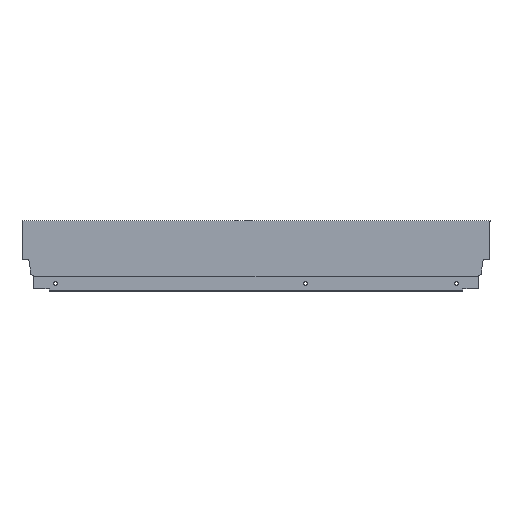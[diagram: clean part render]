
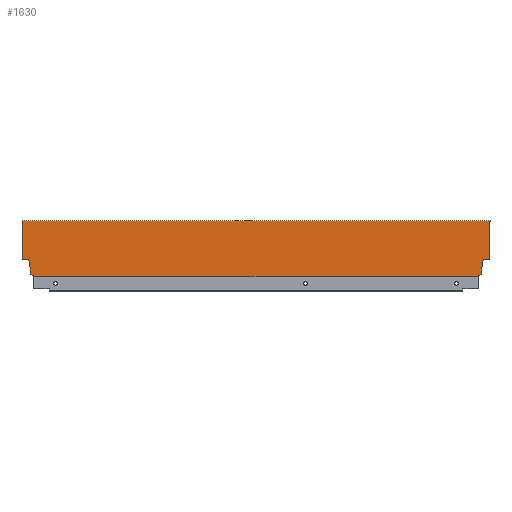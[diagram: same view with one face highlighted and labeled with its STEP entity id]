
A CAD part, top view. The second image highlights one B-rep face of the part: STEP entity #1630.
In plain terms, the highlighted planar face has unit normal (0, 0, 1).
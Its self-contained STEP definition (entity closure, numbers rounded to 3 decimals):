
#15 = ORIENTED_EDGE ( 'NONE', *, *, #1556, .F. ) ;
#20 = ORIENTED_EDGE ( 'NONE', *, *, #1554, .F. ) ;
#27 = ORIENTED_EDGE ( 'NONE', *, *, #1524, .F. ) ;
#28 = ORIENTED_EDGE ( 'NONE', *, *, #1550, .F. ) ;
#30 = ORIENTED_EDGE ( 'NONE', *, *, #1547, .F. ) ;
#43 = ORIENTED_EDGE ( 'NONE', *, *, #1539, .F. ) ;
#47 = ORIENTED_EDGE ( 'NONE', *, *, #1537, .F. ) ;
#48 = ORIENTED_EDGE ( 'NONE', *, *, #1543, .F. ) ;
#58 = ORIENTED_EDGE ( 'NONE', *, *, #1545, .F. ) ;
#64 = ORIENTED_EDGE ( 'NONE', *, *, #1548, .T. ) ;
#68 = ORIENTED_EDGE ( 'NONE', *, *, #1558, .F. ) ;
#72 = ORIENTED_EDGE ( 'NONE', *, *, #1535, .T. ) ;
#77 = ORIENTED_EDGE ( 'NONE', *, *, #1560, .F. ) ;
#78 = ORIENTED_EDGE ( 'NONE', *, *, #1552, .F. ) ;
#82 = ORIENTED_EDGE ( 'NONE', *, *, #1541, .F. ) ;
#94 = ORIENTED_EDGE ( 'NONE', *, *, #1542, .F. ) ;
#95 = ORIENTED_EDGE ( 'NONE', *, *, #1546, .F. ) ;
#96 = ORIENTED_EDGE ( 'NONE', *, *, #1533, .T. ) ;
#190 = AXIS2_PLACEMENT_3D ( 'NONE', #1067, #1072, #1073 ) ;
#451 = LINE ( 'NONE', #944, #452 ) ;
#452 = VECTOR ( 'NONE', #945, 1000. ) ;
#463 = VECTOR ( 'NONE', #981, 1000. ) ;
#466 = LINE ( 'NONE', #963, #467 ) ;
#467 = VECTOR ( 'NONE', #964, 1000. ) ;
#469 = LINE ( 'NONE', #980, #463 ) ;
#470 = LINE ( 'NONE', #966, #471 ) ;
#471 = VECTOR ( 'NONE', #967, 1000. ) ;
#474 = LINE ( 'NONE', #970, #475 ) ;
#475 = VECTOR ( 'NONE', #971, 1000. ) ;
#478 = LINE ( 'NONE', #975, #479 ) ;
#479 = VECTOR ( 'NONE', #976, 1000. ) ;
#481 = LINE ( 'NONE', #1006, #520 ) ;
#482 = LINE ( 'NONE', #974, #508 ) ;
#484 = LINE ( 'NONE', #982, #485 ) ;
#485 = VECTOR ( 'NONE', #983, 1000. ) ;
#486 = LINE ( 'NONE', #984, #487 ) ;
#487 = VECTOR ( 'NONE', #985, 1000. ) ;
#490 = LINE ( 'NONE', #988, #491 ) ;
#491 = VECTOR ( 'NONE', #989, 1000. ) ;
#492 = LINE ( 'NONE', #990, #493 ) ;
#493 = VECTOR ( 'NONE', #991, 1000. ) ;
#494 = LINE ( 'NONE', #992, #495 ) ;
#495 = VECTOR ( 'NONE', #993, 1000. ) ;
#496 = LINE ( 'NONE', #994, #497 ) ;
#497 = VECTOR ( 'NONE', #995, 1000. ) ;
#500 = LINE ( 'NONE', #998, #501 ) ;
#501 = VECTOR ( 'NONE', #999, 1000. ) ;
#504 = LINE ( 'NONE', #1002, #505 ) ;
#505 = VECTOR ( 'NONE', #1003, 1000. ) ;
#508 = VECTOR ( 'NONE', #1007, 1000. ) ;
#512 = LINE ( 'NONE', #1010, #513 ) ;
#513 = VECTOR ( 'NONE', #1011, 1000. ) ;
#516 = LINE ( 'NONE', #1014, #517 ) ;
#517 = VECTOR ( 'NONE', #1015, 1000. ) ;
#520 = VECTOR ( 'NONE', #1019, 1000. ) ;
#568 = VERTEX_POINT ( 'NONE', #809 ) ;
#571 = VERTEX_POINT ( 'NONE', #800 ) ;
#573 = VERTEX_POINT ( 'NONE', #812 ) ;
#576 = VERTEX_POINT ( 'NONE', #813 ) ;
#579 = VERTEX_POINT ( 'NONE', #816 ) ;
#581 = VERTEX_POINT ( 'NONE', #818 ) ;
#589 = VERTEX_POINT ( 'NONE', #826 ) ;
#591 = VERTEX_POINT ( 'NONE', #828 ) ;
#595 = VERTEX_POINT ( 'NONE', #832 ) ;
#605 = VERTEX_POINT ( 'NONE', #842 ) ;
#613 = VERTEX_POINT ( 'NONE', #850 ) ;
#619 = VERTEX_POINT ( 'NONE', #856 ) ;
#623 = VERTEX_POINT ( 'NONE', #860 ) ;
#635 = VERTEX_POINT ( 'NONE', #872 ) ;
#641 = VERTEX_POINT ( 'NONE', #878 ) ;
#642 = VERTEX_POINT ( 'NONE', #879 ) ;
#655 = VERTEX_POINT ( 'NONE', #892 ) ;
#656 = VERTEX_POINT ( 'NONE', #893 ) ;
#800 = CARTESIAN_POINT ( 'NONE',  ( 1., 68., 7.5 ) ) ;
#809 = CARTESIAN_POINT ( 'NONE',  ( 1., 66.5, 7.5 ) ) ;
#812 = CARTESIAN_POINT ( 'NONE',  ( -13.004, 1.146, 7.5 ) ) ;
#813 = CARTESIAN_POINT ( 'NONE',  ( -553.996, 1.146, 7.5 ) ) ;
#816 = CARTESIAN_POINT ( 'NONE',  ( -567., 21.2, 7.5 ) ) ;
#818 = CARTESIAN_POINT ( 'NONE',  ( -559.94, 21.2, 7.5 ) ) ;
#826 = CARTESIAN_POINT ( 'NONE',  ( -567., 66.5, 7.5 ) ) ;
#828 = CARTESIAN_POINT ( 'NONE',  ( -8.9, 2.64, 7.5 ) ) ;
#832 = CARTESIAN_POINT ( 'NONE',  ( -8.9, 10.765, 7.5 ) ) ;
#842 = CARTESIAN_POINT ( 'NONE',  ( 0., 66.5, 7.5 ) ) ;
#850 = CARTESIAN_POINT ( 'NONE',  ( -7.06, 21.2, 7.5 ) ) ;
#856 = CARTESIAN_POINT ( 'NONE',  ( 0., 21.2, 7.5 ) ) ;
#860 = CARTESIAN_POINT ( 'NONE',  ( -558.1, 10.765, 7.5 ) ) ;
#872 = CARTESIAN_POINT ( 'NONE',  ( -568., 66.5, 7.5 ) ) ;
#878 = CARTESIAN_POINT ( 'NONE',  ( -13.004, 0., 7.5 ) ) ;
#879 = CARTESIAN_POINT ( 'NONE',  ( -568., 68., 7.5 ) ) ;
#892 = CARTESIAN_POINT ( 'NONE',  ( -553.996, 0., 7.5 ) ) ;
#893 = CARTESIAN_POINT ( 'NONE',  ( -558.1, 2.64, 7.5 ) ) ;
#944 = CARTESIAN_POINT ( 'NONE',  ( 0., 0., 7.5 ) ) ;
#945 = DIRECTION ( 'NONE',  ( 0., -1., 0. ) ) ;
#963 = CARTESIAN_POINT ( 'NONE',  ( -567., 0., 7.5 ) ) ;
#964 = DIRECTION ( 'NONE',  ( 1., 0., 0. ) ) ;
#966 = CARTESIAN_POINT ( 'NONE',  ( -568., 66.5, 7.5 ) ) ;
#967 = DIRECTION ( 'NONE',  ( 1., 0., 0. ) ) ;
#970 = CARTESIAN_POINT ( 'NONE',  ( -572., 21.2, 7.5 ) ) ;
#971 = DIRECTION ( 'NONE',  ( -1., 0., 0. ) ) ;
#974 = CARTESIAN_POINT ( 'NONE',  ( -7.06, 21.2, 7.5 ) ) ;
#975 = CARTESIAN_POINT ( 'NONE',  ( -567., 68., 7.5 ) ) ;
#976 = DIRECTION ( 'NONE',  ( 1., 0., 0. ) ) ;
#980 = CARTESIAN_POINT ( 'NONE',  ( -558.1, 10.765, 7.5 ) ) ;
#981 = DIRECTION ( 'NONE',  ( 0., 1., 0. ) ) ;
#982 = CARTESIAN_POINT ( 'NONE',  ( -559.94, 21.2, 7.5 ) ) ;
#983 = DIRECTION ( 'NONE',  ( -0.174, 0.985, 0. ) ) ;
#984 = CARTESIAN_POINT ( 'NONE',  ( -553.996, 1.146, 7.5 ) ) ;
#985 = DIRECTION ( 'NONE',  ( 0., 1., 0. ) ) ;
#988 = CARTESIAN_POINT ( 'NONE',  ( -13.004, 1.146, 7.5 ) ) ;
#989 = DIRECTION ( 'NONE',  ( 0., -1., 0. ) ) ;
#990 = CARTESIAN_POINT ( 'NONE',  ( -568., 66.5, 7.5 ) ) ;
#991 = DIRECTION ( 'NONE',  ( 0., 1., 0. ) ) ;
#992 = CARTESIAN_POINT ( 'NONE',  ( -8.9, 2.64, 7.5 ) ) ;
#993 = DIRECTION ( 'NONE',  ( -0.94, -0.342, 0. ) ) ;
#994 = CARTESIAN_POINT ( 'NONE',  ( -567., 0., 7.5 ) ) ;
#995 = DIRECTION ( 'NONE',  ( 0., -1., 0. ) ) ;
#998 = CARTESIAN_POINT ( 'NONE',  ( -558.1, 2.64, 7.5 ) ) ;
#999 = DIRECTION ( 'NONE',  ( -0.94, 0.342, 0. ) ) ;
#1002 = CARTESIAN_POINT ( 'NONE',  ( -8.9, 10.765, 7.5 ) ) ;
#1003 = DIRECTION ( 'NONE',  ( 0., -1., 0. ) ) ;
#1006 = CARTESIAN_POINT ( 'NONE',  ( 1., 68., 7.5 ) ) ;
#1007 = DIRECTION ( 'NONE',  ( -0.174, -0.985, 0. ) ) ;
#1010 = CARTESIAN_POINT ( 'NONE',  ( 0., 21.2, 7.5 ) ) ;
#1011 = DIRECTION ( 'NONE',  ( -1., 0., 0. ) ) ;
#1014 = CARTESIAN_POINT ( 'NONE',  ( 1., 66.5, 7.5 ) ) ;
#1015 = DIRECTION ( 'NONE',  ( -1., 0., 0. ) ) ;
#1019 = DIRECTION ( 'NONE',  ( 0., -1., 0. ) ) ;
#1059 = PLANE ( 'NONE',  #190 ) ;
#1067 = CARTESIAN_POINT ( 'NONE',  ( -567., 0., 7.5 ) ) ;
#1072 = DIRECTION ( 'NONE',  ( 0., 0., 1. ) ) ;
#1073 = DIRECTION ( 'NONE',  ( 1., 0., 0. ) ) ;
#1281 = FACE_OUTER_BOUND ( 'NONE', #1588, .T. ) ;
#1524 = EDGE_CURVE ( 'NONE', #605, #619, #451, .T. ) ;
#1533 = EDGE_CURVE ( 'NONE', #655, #641, #466, .T. ) ;
#1535 = EDGE_CURVE ( 'NONE', #635, #589, #470, .T. ) ;
#1537 = EDGE_CURVE ( 'NONE', #581, #579, #474, .T. ) ;
#1539 = EDGE_CURVE ( 'NONE', #642, #571, #478, .T. ) ;
#1541 = EDGE_CURVE ( 'NONE', #656, #623, #469, .T. ) ;
#1542 = EDGE_CURVE ( 'NONE', #623, #581, #484, .T. ) ;
#1543 = EDGE_CURVE ( 'NONE', #655, #576, #486, .T. ) ;
#1545 = EDGE_CURVE ( 'NONE', #573, #641, #490, .T. ) ;
#1546 = EDGE_CURVE ( 'NONE', #635, #642, #492, .T. ) ;
#1547 = EDGE_CURVE ( 'NONE', #591, #573, #494, .T. ) ;
#1548 = EDGE_CURVE ( 'NONE', #589, #579, #496, .T. ) ;
#1550 = EDGE_CURVE ( 'NONE', #576, #656, #500, .T. ) ;
#1552 = EDGE_CURVE ( 'NONE', #595, #591, #504, .T. ) ;
#1554 = EDGE_CURVE ( 'NONE', #613, #595, #482, .T. ) ;
#1556 = EDGE_CURVE ( 'NONE', #619, #613, #512, .T. ) ;
#1558 = EDGE_CURVE ( 'NONE', #568, #605, #516, .T. ) ;
#1560 = EDGE_CURVE ( 'NONE', #571, #568, #481, .T. ) ;
#1588 = EDGE_LOOP ( 'NONE', ( #43, #95, #72, #64, #47, #94, #82, #28, #48, #96, #58, #30, #78, #20, #15, #27, #68, #77 ) ) ;
#1630 = ADVANCED_FACE ( 'NONE', ( #1281 ), #1059, .T. ) ;
